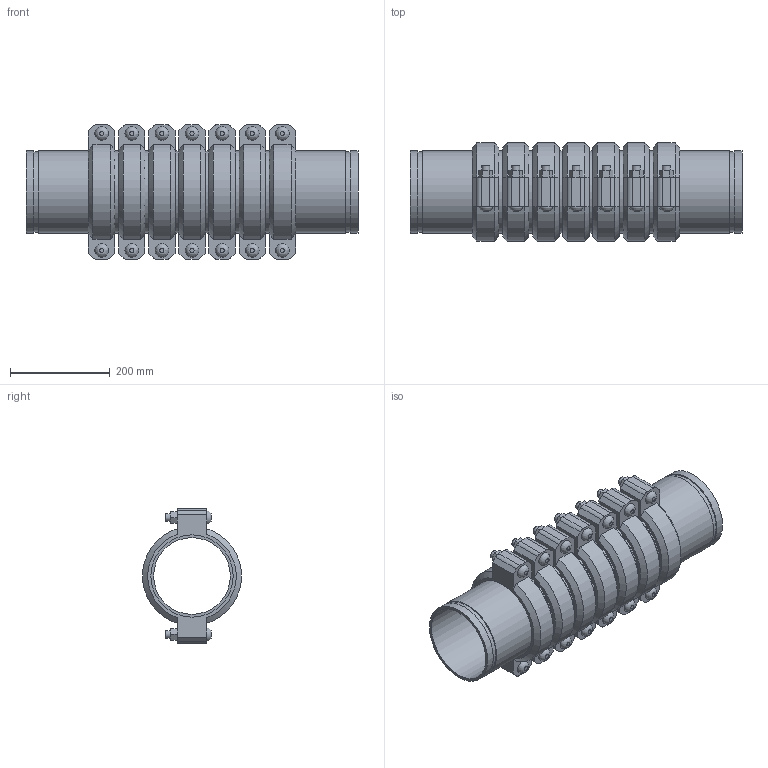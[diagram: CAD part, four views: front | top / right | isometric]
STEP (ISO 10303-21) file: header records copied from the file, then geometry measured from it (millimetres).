
FILE_DESCRIPTION(/* description */ ('VIC EXPANSION JOINT 7 COUPLINGS COMPRESSED STYLE 155 (OGS)','CAx-IF Rec.Pracs.---Representation and Presentation of Product Manufacturing Information (PMI)---4.0---2014-10-13'),/* implementation_level */ '2;1');
FILE_NAME(/* name */ 'C:\Users\kkamble\AppData\Roaming\Autodesk\ApplicationPlugins\Victaulic.Temp\A262\Victaulic_IPS_Expansion Joint_Compressed_7 Couplings_Style 155 (OGS)_06.0 (165.1) (150).stp',/* time_stamp */ '2021-06-27T00:34:21+02:00',/* author */ ('kkamble'),/* organization */ ('Victaulic'),/* preprocessor_version */ 'ST-DEVELOPER v17.2',/* originating_system */ 'Autodesk Inventor 2019',/* authorisation */ '');
FILE_SCHEMA (('AP242_MANAGED_MODEL_BASED_3D_ENGINEERING_MIM_LF { 1 0 10303 442 1 1 4 }'));
Length unit declared in the file: inch
Products named in the file (4): 155-06.0 (165.1); Nipple-06.0 (165.1); Nipple-06.0 (165.1)_1; 075_7_Coup-06.0 (165.1)
Assembly tree (15 placements, depth 2):
  155-06.0 (165.1)
    Nipple-06.0 (165.1)  x2
    Nipple-06.0 (165.1)_1  x6
    075_7_Coup-06.0 (165.1)  x7
Bounding box: 666.75 x 198.42 x 270.76 mm (x, y, z)
Volume: 6593312.1 mm3; surface area: 1504428.2 mm2
Topology: 15 solids, 29 shells, 495 faces, 1171 edges, 822 vertices
Faces by surface type: plane 300, cylinder 153, cone 28, bspline 14
Full cylindrical faces by diameter (mm): 15.875 x28, 17.424 x14, 153.975 x8, 158.75 x7, 160.782 x16, 165.1 x38
Entity records: 2842 total; most frequent: CARTESIAN_POINT 499, DIRECTION 473, ORIENTED_EDGE 386, EDGE_CURVE 193, AXIS2_PLACEMENT_3D 190, VERTEX_POINT 138, EDGE_LOOP 107, LINE 93
